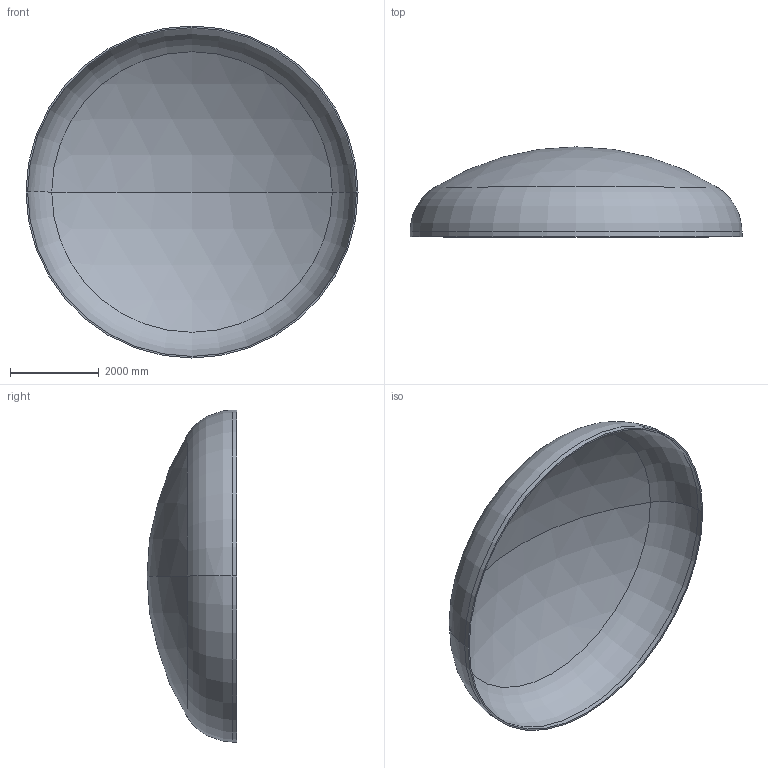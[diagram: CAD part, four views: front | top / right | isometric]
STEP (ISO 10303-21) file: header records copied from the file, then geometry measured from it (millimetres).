
FILE_DESCRIPTION (( 'STEP AP203' ), '1' );
FILE_NAME ('DIN 28013 Korbbogenform_-_Boden DIN 28013 - 7500 x 110 - I - s=36.step', '2016-07-04T10:53:25', ( '' ), ( '' ), 'SwSTEP 2.0', 'SolidWorks 2013', '' );
FILE_SCHEMA (( 'CONFIG_CONTROL_DESIGN' ));
Length unit declared in the file: millimetre
Products named in the file (1): DIN 28013 Korbbogenform_-_Boden DIN 28013 - 7500 x 110 - I - s=36
Bounding box: 7500 x 2031.93 x 7500 mm (x, y, z)
Volume: 2281732041.8 mm3; surface area: 127609713.7 mm2
Topology: 1 solids, 1 shells, 13 faces, 24 edges, 14 vertices
Faces by surface type: torus 4, cylinder 4, sphere 4, plane 1
Entity records: 407 total; most frequent: DIRECTION 72, CARTESIAN_POINT 52, ORIENTED_EDGE 48, AXIS2_PLACEMENT_3D 34, EDGE_CURVE 24, CIRCLE 20, EDGE_LOOP 14, VERTEX_POINT 14
